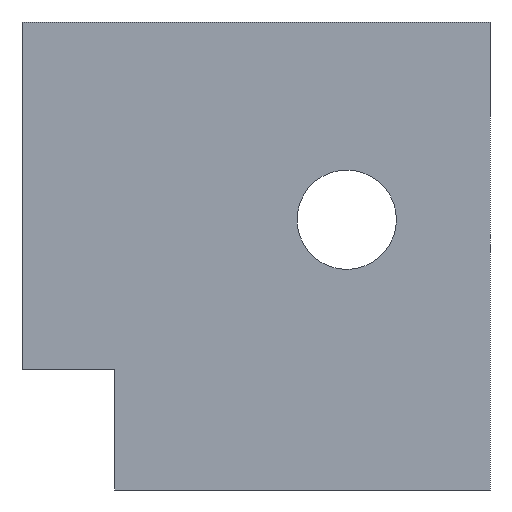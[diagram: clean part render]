
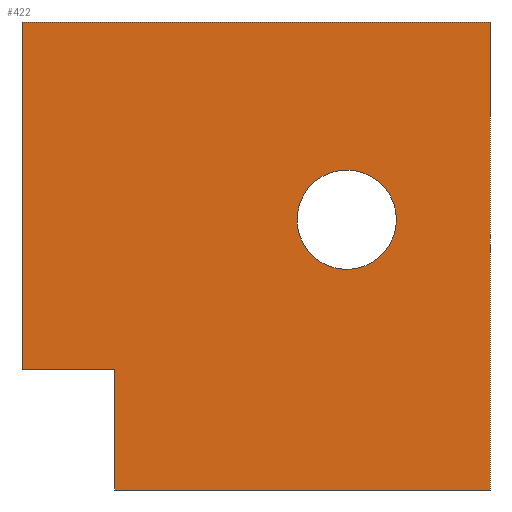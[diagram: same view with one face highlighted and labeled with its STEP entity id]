
A CAD part, left-side view. The second image highlights one B-rep face of the part: STEP entity #422.
In plain terms, the highlighted planar face has unit normal (-1, 0, 0).
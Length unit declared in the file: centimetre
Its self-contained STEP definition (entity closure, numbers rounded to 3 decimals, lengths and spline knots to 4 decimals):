
#11 = VECTOR ( 'NONE', #619, 100. ) ;
#12 = VERTEX_POINT ( 'NONE', #187 ) ;
#21 = CARTESIAN_POINT ( 'NONE',  ( 0., 802.0094, 0. ) ) ;
#23 = ORIENTED_EDGE ( 'NONE', *, *, #351, .F. ) ;
#25 = LINE ( 'NONE', #782, #122 ) ;
#35 = DIRECTION ( 'NONE',  ( 0., 0., 1. ) ) ;
#39 = CARTESIAN_POINT ( 'NONE',  ( 0., 306.0471, 683.6883 ) ) ;
#55 = LINE ( 'NONE', #183, #11 ) ;
#72 = DIRECTION ( 'NONE',  ( -1., 0., 0. ) ) ;
#80 = ORIENTED_EDGE ( 'NONE', *, *, #333, .T. ) ;
#87 = EDGE_LOOP ( 'NONE', ( #767, #413 ) ) ;
#95 = DIRECTION ( 'NONE',  ( 0., 0., -1. ) ) ;
#106 = ORIENTED_EDGE ( 'NONE', *, *, #653, .T. ) ;
#120 = CIRCLE ( 'NONE', #428, 106.1704 ) ;
#122 = VECTOR ( 'NONE', #401, 100. ) ;
#123 = AXIS2_PLACEMENT_3D ( 'NONE', #719, #596, #35 ) ;
#133 = VECTOR ( 'NONE', #714, 100. ) ;
#152 = CARTESIAN_POINT ( 'NONE',  ( 0., 1000., 1000. ) ) ;
#153 = PLANE ( 'NONE',  #637 ) ;
#157 = CARTESIAN_POINT ( 'NONE',  ( 0., 802.0094, 257.1941 ) ) ;
#164 = FACE_BOUND ( 'NONE', #87, .T. ) ;
#183 = CARTESIAN_POINT ( 'NONE',  ( 0., 1000., 1000. ) ) ;
#187 = CARTESIAN_POINT ( 'NONE',  ( 0., 802.0094, 257.1941 ) ) ;
#198 = DIRECTION ( 'NONE',  ( 0., 0., 1. ) ) ;
#214 = EDGE_CURVE ( 'NONE', #395, #336, #120, .T. ) ;
#229 = CARTESIAN_POINT ( 'NONE',  ( 0., 306.0471, 471.3474 ) ) ;
#253 = VECTOR ( 'NONE', #601, 100. ) ;
#313 = DIRECTION ( 'NONE',  ( 0., 0., -1. ) ) ;
#321 = EDGE_CURVE ( 'NONE', #12, #801, #778, .T. ) ;
#333 = EDGE_CURVE ( 'NONE', #801, #717, #25, .T. ) ;
#336 = VERTEX_POINT ( 'NONE', #229 ) ;
#338 = VERTEX_POINT ( 'NONE', #522 ) ;
#339 = CARTESIAN_POINT ( 'NONE',  ( 0., 0., 1000. ) ) ;
#351 = EDGE_CURVE ( 'NONE', #779, #717, #769, .T. ) ;
#354 = EDGE_CURVE ( 'NONE', #338, #12, #641, .T. ) ;
#360 = VECTOR ( 'NONE', #95, 100. ) ;
#362 = CIRCLE ( 'NONE', #123, 106.1704 ) ;
#364 = ORIENTED_EDGE ( 'NONE', *, *, #321, .T. ) ;
#385 = EDGE_CURVE ( 'NONE', #336, #395, #362, .T. ) ;
#391 = CARTESIAN_POINT ( 'NONE',  ( 0., 306.0471, 577.5179 ) ) ;
#395 = VERTEX_POINT ( 'NONE', #39 ) ;
#401 = DIRECTION ( 'NONE',  ( 0., -1., 0. ) ) ;
#409 = FACE_OUTER_BOUND ( 'NONE', #476, .T. ) ;
#413 = ORIENTED_EDGE ( 'NONE', *, *, #385, .F. ) ;
#422 = ADVANCED_FACE ( 'NONE', ( #164, #409 ), #153, .F. ) ;
#428 = AXIS2_PLACEMENT_3D ( 'NONE', #391, #72, #198 ) ;
#456 = CARTESIAN_POINT ( 'NONE',  ( 0., 1000., 1000. ) ) ;
#460 = CARTESIAN_POINT ( 'NONE',  ( 0., 0., 1000. ) ) ;
#476 = EDGE_LOOP ( 'NONE', ( #532, #364, #80, #23, #505, #106 ) ) ;
#505 = ORIENTED_EDGE ( 'NONE', *, *, #523, .F. ) ;
#522 = CARTESIAN_POINT ( 'NONE',  ( 0., 1000., 257.1941 ) ) ;
#523 = EDGE_CURVE ( 'NONE', #799, #779, #55, .T. ) ;
#532 = ORIENTED_EDGE ( 'NONE', *, *, #354, .T. ) ;
#596 = DIRECTION ( 'NONE',  ( -1., 0., 0. ) ) ;
#601 = DIRECTION ( 'NONE',  ( 0., -1., 0. ) ) ;
#619 = DIRECTION ( 'NONE',  ( 0., -1., 0. ) ) ;
#637 = AXIS2_PLACEMENT_3D ( 'NONE', #456, #645, #657 ) ;
#641 = LINE ( 'NONE', #157, #253 ) ;
#645 = DIRECTION ( 'NONE',  ( 1., 0., 0. ) ) ;
#653 = EDGE_CURVE ( 'NONE', #799, #338, #817, .T. ) ;
#657 = DIRECTION ( 'NONE',  ( 0., 0., -1. ) ) ;
#684 = CARTESIAN_POINT ( 'NONE',  ( 0., 1000., 1000. ) ) ;
#714 = DIRECTION ( 'NONE',  ( 0., 0., -1. ) ) ;
#717 = VERTEX_POINT ( 'NONE', #814 ) ;
#719 = CARTESIAN_POINT ( 'NONE',  ( 0., 306.0471, 577.5179 ) ) ;
#767 = ORIENTED_EDGE ( 'NONE', *, *, #214, .F. ) ;
#769 = LINE ( 'NONE', #460, #133 ) ;
#778 = LINE ( 'NONE', #21, #360 ) ;
#779 = VERTEX_POINT ( 'NONE', #339 ) ;
#781 = CARTESIAN_POINT ( 'NONE',  ( 0., 802.0094, 0. ) ) ;
#782 = CARTESIAN_POINT ( 'NONE',  ( 0., 1000., 0. ) ) ;
#788 = VECTOR ( 'NONE', #313, 100. ) ;
#799 = VERTEX_POINT ( 'NONE', #152 ) ;
#801 = VERTEX_POINT ( 'NONE', #781 ) ;
#814 = CARTESIAN_POINT ( 'NONE',  ( 0., 0., 0. ) ) ;
#817 = LINE ( 'NONE', #684, #788 ) ;
